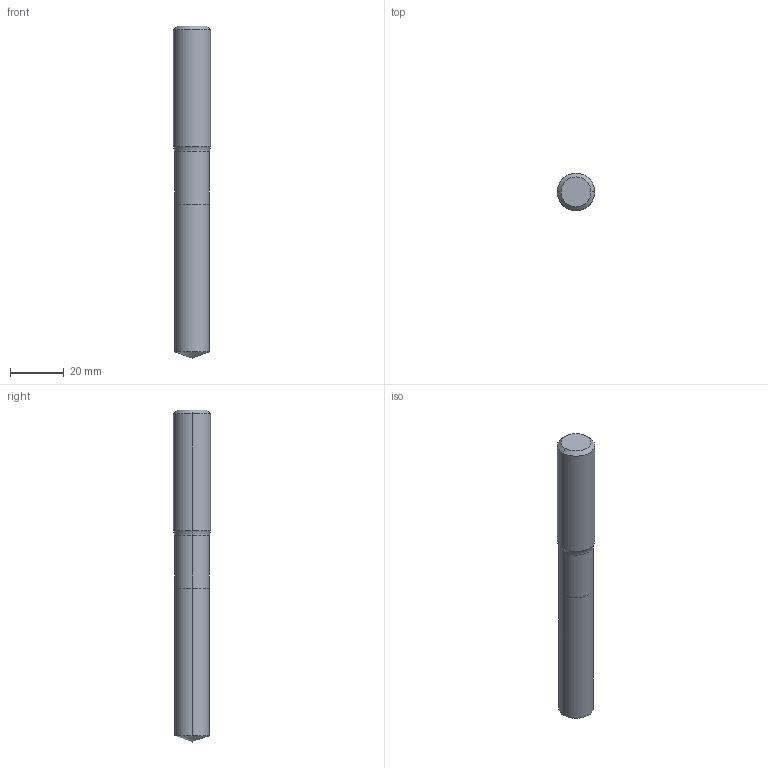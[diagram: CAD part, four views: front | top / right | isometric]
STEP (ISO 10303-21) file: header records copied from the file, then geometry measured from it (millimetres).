
FILE_DESCRIPTION (( 'STEP AP214' ), '1' );
FILE_NAME ('905.130.00_3D-model.step', '2022-02-24T18:02:10', ( '' ), ( '' ), 'SwSTEP 2.0', 'SolidWorks 2020', '' );
FILE_SCHEMA (( 'AUTOMOTIVE_DESIGN' ));
Length unit declared in the file: millimetre
Products named in the file (3): NOCUT-3D^Baugr111; 905.130.00_3D-model; CUT-3D^Baugr111
Assembly tree (2 placements, depth 2):
  905.130.00_3D-model
    CUT-3D^Baugr111
    NOCUT-3D^Baugr111
Bounding box: 14 x 14 x 124 mm (x, y, z)
Volume: 17178 mm3; surface area: 5636.9 mm2
Topology: 2 solids, 2 shells, 15 faces, 28 edges, 15 vertices
Faces by surface type: cylinder 6, cone 4, plane 3, torus 2
Entity records: 482 total; most frequent: DIRECTION 88, CARTESIAN_POINT 64, ORIENTED_EDGE 52, AXIS2_PLACEMENT_3D 39, EDGE_CURVE 26, CIRCLE 16, EDGE_LOOP 15, ADVANCED_FACE 15
